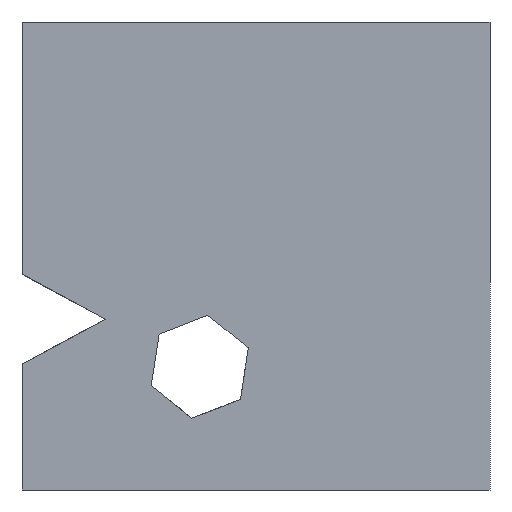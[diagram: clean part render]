
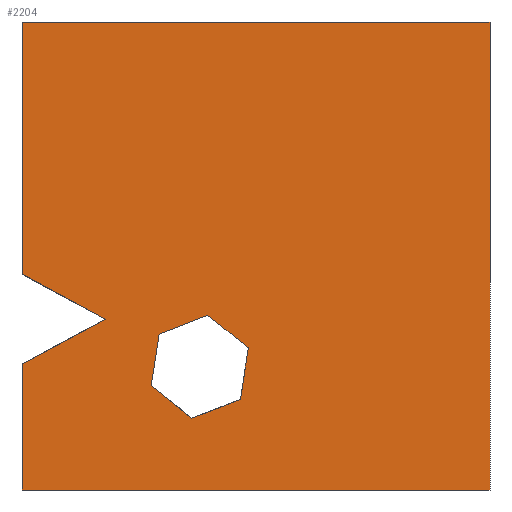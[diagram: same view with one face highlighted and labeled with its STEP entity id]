
A CAD part, front view. The second image highlights one B-rep face of the part: STEP entity #2204.
In plain terms, the highlighted planar face has unit normal (0, -1, 0).
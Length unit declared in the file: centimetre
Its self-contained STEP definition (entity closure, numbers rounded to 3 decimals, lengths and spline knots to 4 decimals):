
#8 = EDGE_CURVE ( 'NONE', #3088, #223, #1678, .T. ) ;
#52 = VERTEX_POINT ( 'NONE', #2933 ) ;
#57 = DIRECTION ( 'NONE',  ( 1., 0., 0. ) ) ;
#59 = VERTEX_POINT ( 'NONE', #3139 ) ;
#62 = VECTOR ( 'NONE', #2323, 100. ) ;
#82 = CARTESIAN_POINT ( 'NONE',  ( 292.9723, 0., 333.0255 ) ) ;
#93 = LINE ( 'NONE', #2968, #1476 ) ;
#140 = CARTESIAN_POINT ( 'NONE',  ( 0., 0., 1000. ) ) ;
#196 = VERTEX_POINT ( 'NONE', #1302 ) ;
#223 = VERTEX_POINT ( 'NONE', #609 ) ;
#237 = DIRECTION ( 'NONE',  ( 0., 0., -1. ) ) ;
#253 = CARTESIAN_POINT ( 'NONE',  ( 363.0098, 0., 153.291 ) ) ;
#256 = VERTEX_POINT ( 'NONE', #82 ) ;
#315 = CARTESIAN_POINT ( 'NONE',  ( 396.7421, 0., 373.4617 ) ) ;
#377 = DIRECTION ( 'NONE',  ( 0., 0., 1. ) ) ;
#413 = DIRECTION ( 'NONE',  ( 0.151, 0., 0.988 ) ) ;
#415 = ORIENTED_EDGE ( 'NONE', *, *, #1051, .T. ) ;
#437 = ORIENTED_EDGE ( 'NONE', *, *, #562, .F. ) ;
#469 = VECTOR ( 'NONE', #1225, 100. ) ;
#522 = CARTESIAN_POINT ( 'NONE',  ( 0., 0., 1000. ) ) ;
#529 = AXIS2_PLACEMENT_3D ( 'NONE', #1576, #2551, #377 ) ;
#562 = EDGE_CURVE ( 'NONE', #1609, #2378, #2652, .T. ) ;
#563 = ORIENTED_EDGE ( 'NONE', *, *, #677, .T. ) ;
#579 = LINE ( 'NONE', #1351, #62 ) ;
#585 = VECTOR ( 'NONE', #1344, 100. ) ;
#609 = CARTESIAN_POINT ( 'NONE',  ( 0., 0., 461.2126 ) ) ;
#617 = PLANE ( 'NONE',  #529 ) ;
#677 = EDGE_CURVE ( 'NONE', #196, #2378, #93, .T. ) ;
#696 = CARTESIAN_POINT ( 'NONE',  ( 466.7796, 0., 193.7271 ) ) ;
#706 = LINE ( 'NONE', #1428, #2297 ) ;
#715 = EDGE_CURVE ( 'NONE', #52, #59, #2562, .T. ) ;
#727 = EDGE_CURVE ( 'NONE', #256, #759, #579, .T. ) ;
#759 = VERTEX_POINT ( 'NONE', #315 ) ;
#773 = VECTOR ( 'NONE', #2778, 100. ) ;
#817 = CARTESIAN_POINT ( 'NONE',  ( 0., 0., 1000. ) ) ;
#821 = EDGE_CURVE ( 'NONE', #223, #52, #2972, .T. ) ;
#827 = VECTOR ( 'NONE', #2752, 100. ) ;
#832 = VECTOR ( 'NONE', #2409, 100. ) ;
#833 = ORIENTED_EDGE ( 'NONE', *, *, #715, .T. ) ;
#840 = LINE ( 'NONE', #1809, #773 ) ;
#915 = DIRECTION ( 'NONE',  ( -0.932, 0., -0.363 ) ) ;
#982 = CARTESIAN_POINT ( 'NONE',  ( 483.6457, 0., 303.8125 ) ) ;
#987 = CARTESIAN_POINT ( 'NONE',  ( 178.4924, 0., 364.8041 ) ) ;
#1051 = EDGE_CURVE ( 'NONE', #2530, #1280, #1063, .T. ) ;
#1063 = LINE ( 'NONE', #2767, #2603 ) ;
#1071 = ORIENTED_EDGE ( 'NONE', *, *, #1524, .T. ) ;
#1100 = DIRECTION ( 'NONE',  ( -0.78, 0., 0.625 ) ) ;
#1103 = CARTESIAN_POINT ( 'NONE',  ( 0., 0., 269.3087 ) ) ;
#1225 = DIRECTION ( 'NONE',  ( 0.88, 0., -0.475 ) ) ;
#1247 = DIRECTION ( 'NONE',  ( 0., 0., -1. ) ) ;
#1280 = VERTEX_POINT ( 'NONE', #2473 ) ;
#1302 = CARTESIAN_POINT ( 'NONE',  ( 0., 0., 0. ) ) ;
#1344 = DIRECTION ( 'NONE',  ( -0.151, 0., -0.988 ) ) ;
#1351 = CARTESIAN_POINT ( 'NONE',  ( 292.9723, 0., 333.0255 ) ) ;
#1428 = CARTESIAN_POINT ( 'NONE',  ( 466.7796, 0., 193.7271 ) ) ;
#1436 = CARTESIAN_POINT ( 'NONE',  ( 0., 0., 1000. ) ) ;
#1442 = ORIENTED_EDGE ( 'NONE', *, *, #1957, .T. ) ;
#1476 = VECTOR ( 'NONE', #57, 100. ) ;
#1510 = EDGE_LOOP ( 'NONE', ( #1071, #2687, #2304, #415, #1442, #2628 ) ) ;
#1524 = EDGE_CURVE ( 'NONE', #759, #2485, #840, .T. ) ;
#1576 = CARTESIAN_POINT ( 'NONE',  ( 0., 0., 1000. ) ) ;
#1609 = VERTEX_POINT ( 'NONE', #2872 ) ;
#1621 = VERTEX_POINT ( 'NONE', #696 ) ;
#1644 = EDGE_CURVE ( 'NONE', #1621, #2530, #706, .T. ) ;
#1678 = LINE ( 'NONE', #522, #3091 ) ;
#1688 = VECTOR ( 'NONE', #413, 100. ) ;
#1786 = EDGE_LOOP ( 'NONE', ( #2209, #833, #2862, #563, #437, #2565, #2993 ) ) ;
#1809 = CARTESIAN_POINT ( 'NONE',  ( 396.7421, 0., 373.4617 ) ) ;
#1854 = CARTESIAN_POINT ( 'NONE',  ( 483.6457, 0., 303.8125 ) ) ;
#1957 = EDGE_CURVE ( 'NONE', #1280, #256, #2572, .T. ) ;
#2094 = FACE_BOUND ( 'NONE', #1510, .T. ) ;
#2125 = EDGE_CURVE ( 'NONE', #59, #196, #2888, .T. ) ;
#2150 = VECTOR ( 'NONE', #3076, 100. ) ;
#2167 = EDGE_CURVE ( 'NONE', #3088, #1609, #2776, .T. ) ;
#2204 = ADVANCED_FACE ( 'NONE', ( #2094, #2792 ), #617, .F. ) ;
#2209 = ORIENTED_EDGE ( 'NONE', *, *, #821, .T. ) ;
#2297 = VECTOR ( 'NONE', #915, 100. ) ;
#2304 = ORIENTED_EDGE ( 'NONE', *, *, #1644, .T. ) ;
#2323 = DIRECTION ( 'NONE',  ( 0.932, 0., 0.363 ) ) ;
#2378 = VERTEX_POINT ( 'NONE', #2381 ) ;
#2381 = CARTESIAN_POINT ( 'NONE',  ( 1000., 0., 0. ) ) ;
#2409 = DIRECTION ( 'NONE',  ( 0., 0., -1. ) ) ;
#2412 = CARTESIAN_POINT ( 'NONE',  ( 1000., 0., 1000. ) ) ;
#2451 = VECTOR ( 'NONE', #237, 100. ) ;
#2473 = CARTESIAN_POINT ( 'NONE',  ( 276.1062, 0., 222.9402 ) ) ;
#2485 = VERTEX_POINT ( 'NONE', #982 ) ;
#2530 = VERTEX_POINT ( 'NONE', #253 ) ;
#2551 = DIRECTION ( 'NONE',  ( 0., 1., 0. ) ) ;
#2562 = LINE ( 'NONE', #1103, #827 ) ;
#2565 = ORIENTED_EDGE ( 'NONE', *, *, #2167, .F. ) ;
#2572 = LINE ( 'NONE', #2587, #1688 ) ;
#2587 = CARTESIAN_POINT ( 'NONE',  ( 276.1062, 0., 222.9402 ) ) ;
#2603 = VECTOR ( 'NONE', #1100, 100. ) ;
#2628 = ORIENTED_EDGE ( 'NONE', *, *, #727, .T. ) ;
#2652 = LINE ( 'NONE', #2412, #2451 ) ;
#2687 = ORIENTED_EDGE ( 'NONE', *, *, #3136, .T. ) ;
#2752 = DIRECTION ( 'NONE',  ( -0.882, 0., -0.472 ) ) ;
#2767 = CARTESIAN_POINT ( 'NONE',  ( 363.0098, 0., 153.291 ) ) ;
#2776 = LINE ( 'NONE', #140, #2150 ) ;
#2778 = DIRECTION ( 'NONE',  ( 0.78, 0., -0.625 ) ) ;
#2792 = FACE_OUTER_BOUND ( 'NONE', #1786, .T. ) ;
#2793 = LINE ( 'NONE', #1854, #585 ) ;
#2862 = ORIENTED_EDGE ( 'NONE', *, *, #2125, .T. ) ;
#2872 = CARTESIAN_POINT ( 'NONE',  ( 1000., 0., 1000. ) ) ;
#2888 = LINE ( 'NONE', #1436, #832 ) ;
#2933 = CARTESIAN_POINT ( 'NONE',  ( 178.4924, 0., 364.8041 ) ) ;
#2968 = CARTESIAN_POINT ( 'NONE',  ( 0., 0., 0. ) ) ;
#2972 = LINE ( 'NONE', #987, #469 ) ;
#2993 = ORIENTED_EDGE ( 'NONE', *, *, #8, .T. ) ;
#3076 = DIRECTION ( 'NONE',  ( 1., 0., 0. ) ) ;
#3088 = VERTEX_POINT ( 'NONE', #817 ) ;
#3091 = VECTOR ( 'NONE', #1247, 100. ) ;
#3136 = EDGE_CURVE ( 'NONE', #2485, #1621, #2793, .T. ) ;
#3139 = CARTESIAN_POINT ( 'NONE',  ( 0., 0., 269.3087 ) ) ;
